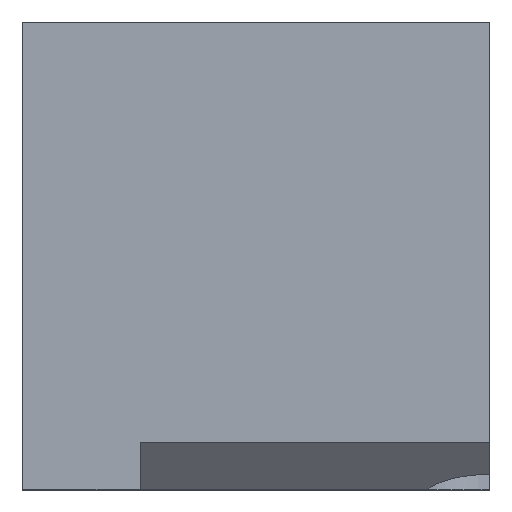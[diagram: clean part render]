
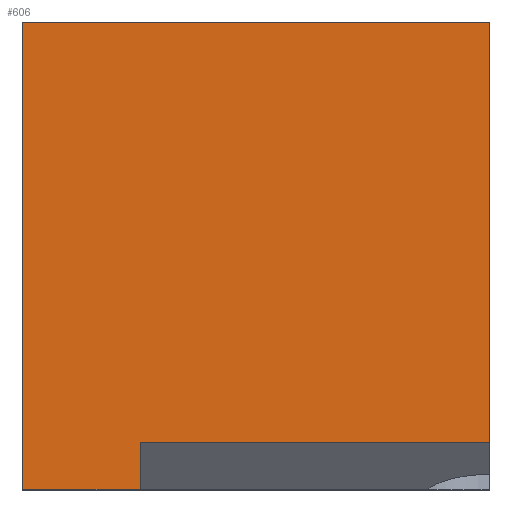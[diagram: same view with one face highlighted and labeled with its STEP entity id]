
A CAD part, top view. The second image highlights one B-rep face of the part: STEP entity #606.
In plain terms, the highlighted planar face has unit normal (0, 0, 1).
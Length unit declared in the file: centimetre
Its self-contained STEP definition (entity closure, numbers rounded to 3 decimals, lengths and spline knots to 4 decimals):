
#49 = VECTOR ( 'NONE', #251, 100. ) ;
#62 = VECTOR ( 'NONE', #159, 100. ) ;
#81 = CARTESIAN_POINT ( 'NONE',  ( 0., 1000., 1000. ) ) ;
#90 = LINE ( 'NONE', #146, #62 ) ;
#93 = LINE ( 'NONE', #387, #520 ) ;
#104 = ORIENTED_EDGE ( 'NONE', *, *, #262, .T. ) ;
#115 = VERTEX_POINT ( 'NONE', #315 ) ;
#146 = CARTESIAN_POINT ( 'NONE',  ( 252.4668, 100.6227, 1000. ) ) ;
#159 = DIRECTION ( 'NONE',  ( 1., 0., 0. ) ) ;
#165 = ORIENTED_EDGE ( 'NONE', *, *, #571, .T. ) ;
#203 = FACE_OUTER_BOUND ( 'NONE', #348, .T. ) ;
#207 = DIRECTION ( 'NONE',  ( 1., 0., 0. ) ) ;
#209 = VECTOR ( 'NONE', #322, 100. ) ;
#251 = DIRECTION ( 'NONE',  ( 0., 1., 0. ) ) ;
#262 = EDGE_CURVE ( 'NONE', #115, #461, #90, .T. ) ;
#265 = CARTESIAN_POINT ( 'NONE',  ( 252.4668, 0., 1000. ) ) ;
#288 = ORIENTED_EDGE ( 'NONE', *, *, #460, .T. ) ;
#301 = ORIENTED_EDGE ( 'NONE', *, *, #376, .F. ) ;
#310 = DIRECTION ( 'NONE',  ( -1., 0., 0. ) ) ;
#315 = CARTESIAN_POINT ( 'NONE',  ( 252.4668, 100.6227, 1000. ) ) ;
#322 = DIRECTION ( 'NONE',  ( 0., -1., 0. ) ) ;
#348 = EDGE_LOOP ( 'NONE', ( #104, #359, #288, #362, #165, #301 ) ) ;
#358 = CARTESIAN_POINT ( 'NONE',  ( 1000., 1000., 1000. ) ) ;
#359 = ORIENTED_EDGE ( 'NONE', *, *, #501, .T. ) ;
#362 = ORIENTED_EDGE ( 'NONE', *, *, #519, .T. ) ;
#376 = EDGE_CURVE ( 'NONE', #115, #536, #423, .T. ) ;
#387 = CARTESIAN_POINT ( 'NONE',  ( 0., 0., 1000. ) ) ;
#414 = LINE ( 'NONE', #81, #617 ) ;
#423 = LINE ( 'NONE', #476, #478 ) ;
#433 = PLANE ( 'NONE',  #647 ) ;
#437 = DIRECTION ( 'NONE',  ( 0., 0., 1. ) ) ;
#460 = EDGE_CURVE ( 'NONE', #677, #671, #414, .T. ) ;
#461 = VERTEX_POINT ( 'NONE', #638 ) ;
#476 = CARTESIAN_POINT ( 'NONE',  ( 252.4668, 0., 1000. ) ) ;
#478 = VECTOR ( 'NONE', #485, 100. ) ;
#485 = DIRECTION ( 'NONE',  ( 0., -1., 0. ) ) ;
#494 = LINE ( 'NONE', #722, #209 ) ;
#501 = EDGE_CURVE ( 'NONE', #461, #677, #539, .T. ) ;
#519 = EDGE_CURVE ( 'NONE', #671, #567, #494, .T. ) ;
#520 = VECTOR ( 'NONE', #207, 100. ) ;
#536 = VERTEX_POINT ( 'NONE', #265 ) ;
#539 = LINE ( 'NONE', #358, #49 ) ;
#567 = VERTEX_POINT ( 'NONE', #718 ) ;
#571 = EDGE_CURVE ( 'NONE', #567, #536, #93, .T. ) ;
#606 = ADVANCED_FACE ( 'NONE', ( #203 ), #433, .T. ) ;
#617 = VECTOR ( 'NONE', #310, 100. ) ;
#638 = CARTESIAN_POINT ( 'NONE',  ( 1000., 100.6227, 1000. ) ) ;
#647 = AXIS2_PLACEMENT_3D ( 'NONE', #657, #437, #663 ) ;
#657 = CARTESIAN_POINT ( 'NONE',  ( 0., 0., 1000. ) ) ;
#663 = DIRECTION ( 'NONE',  ( 1., 0., 0. ) ) ;
#671 = VERTEX_POINT ( 'NONE', #687 ) ;
#677 = VERTEX_POINT ( 'NONE', #741 ) ;
#687 = CARTESIAN_POINT ( 'NONE',  ( 0., 1000., 1000. ) ) ;
#718 = CARTESIAN_POINT ( 'NONE',  ( 0., 0., 1000. ) ) ;
#722 = CARTESIAN_POINT ( 'NONE',  ( 0., 1000., 1000. ) ) ;
#741 = CARTESIAN_POINT ( 'NONE',  ( 1000., 1000., 1000. ) ) ;
